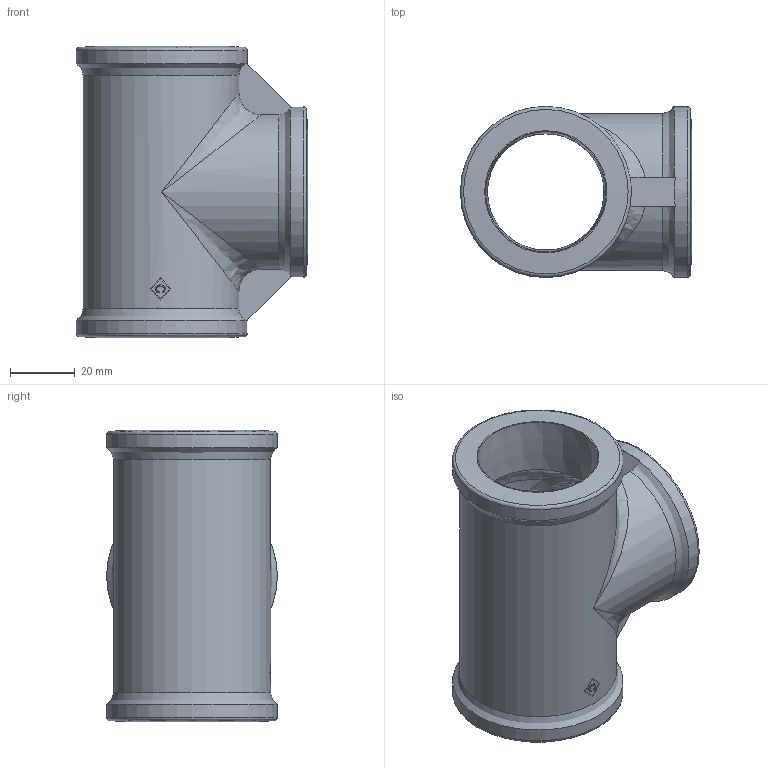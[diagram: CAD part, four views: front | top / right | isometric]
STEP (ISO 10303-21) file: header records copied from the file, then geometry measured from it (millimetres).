
FILE_DESCRIPTION((''),'2;1');
FILE_NAME('P:\Fastrack\53909_CRANE\Crane\Fig.161 Tee\New 1.25 inch\161-1.25.stp','2009-09-16T12:05:27',('btaylor'),(''),'Autodesk Inventor 2008','Autodesk Inventor 2008','');
FILE_SCHEMA(('AUTOMOTIVE_DESIGN { 1 0 10303 214 1 1 1 1 }'));
Length unit declared in the file: millimetre
Products named in the file (1): 161-1.25
Bounding box: 71.35 x 52.7 x 90 mm (x, y, z)
Volume: 76906.6 mm3; surface area: 33224 mm2
Topology: 1 solids, 1 shells, 66 faces, 192 edges, 122 vertices
Faces by surface type: bspline 26, plane 19, cylinder 12, cone 6, torus 3
Full cylindrical faces by diameter (mm): 52.7 x3
Entity records: 4328 total; most frequent: CARTESIAN_POINT 2736, ORIENTED_EDGE 336, DIRECTION 300, EDGE_CURVE 168, AXIS2_PLACEMENT_3D 131, VERTEX_POINT 118, EDGE_LOOP 84, FACE_OUTER_BOUND 66
